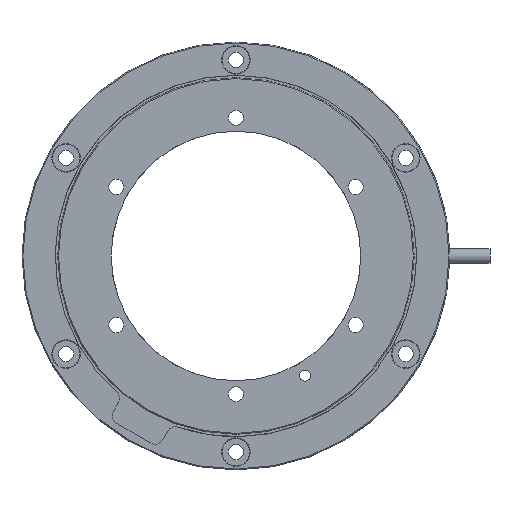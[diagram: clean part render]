
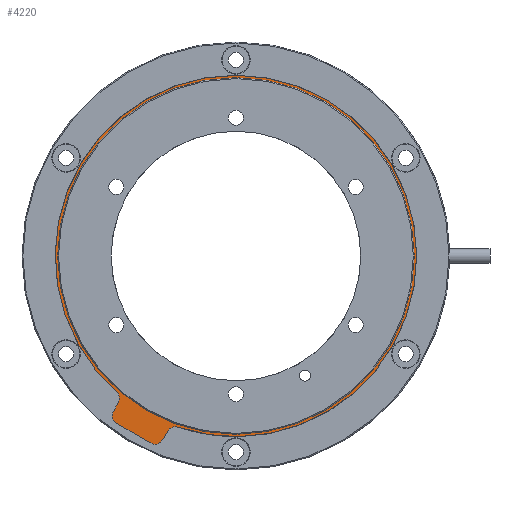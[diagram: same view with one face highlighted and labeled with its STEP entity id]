
A CAD part, front view. The second image highlights one B-rep face of the part: STEP entity #4220.
In plain terms, the highlighted planar face has unit normal (0, -1, 0).
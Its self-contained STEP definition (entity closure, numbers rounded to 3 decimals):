
#16 = DIRECTION ( 'NONE',  ( 0.5, 0., 0.866 ) ) ;
#605 = EDGE_CURVE ( 'NONE', #12593, #2370, #6085, .T. ) ;
#675 = DIRECTION ( 'NONE',  ( 0.5, 0., 0.866 ) ) ;
#733 = EDGE_CURVE ( 'NONE', #13083, #12593, #1282, .T. ) ;
#873 = DIRECTION ( 'NONE',  ( 0.5, 0., 0.866 ) ) ;
#1282 = LINE ( 'NONE', #6525, #5622 ) ;
#1321 = ORIENTED_EDGE ( 'NONE', *, *, #5911, .T. ) ;
#1721 = VECTOR ( 'NONE', #6252, 1000. ) ;
#1812 = CARTESIAN_POINT ( 'NONE',  ( -28.493, 2.8, -36.551 ) ) ;
#2313 = CARTESIAN_POINT ( 'NONE',  ( -18.139, 2.8, -40.219 ) ) ;
#2370 = VERTEX_POINT ( 'NONE', #8362 ) ;
#2409 = CARTESIAN_POINT ( 'NONE',  ( -26.761, 2.8, -37.551 ) ) ;
#2413 = CARTESIAN_POINT ( 'NONE',  ( -26.809, 2.8, -30.424 ) ) ;
#2461 = CARTESIAN_POINT ( 'NONE',  ( -27.493, 2.8, -34.819 ) ) ;
#2564 = AXIS2_PLACEMENT_3D ( 'NONE', #12871, #10789, #873 ) ;
#2638 = EDGE_LOOP ( 'NONE', ( #12337, #5140 ) ) ;
#2905 = EDGE_CURVE ( 'NONE', #2370, #4924, #4213, .T. ) ;
#3207 = VERTEX_POINT ( 'NONE', #2461 ) ;
#3664 = AXIS2_PLACEMENT_3D ( 'NONE', #8796, #13439, #12329 ) ;
#4201 = CARTESIAN_POINT ( 'NONE',  ( -12.943, 2.8, -38.429 ) ) ;
#4204 = DIRECTION ( 'NONE',  ( 0., -1., 0. ) ) ;
#4213 = LINE ( 'NONE', #10743, #12102 ) ;
#4220 = ADVANCED_FACE ( 'NONE', ( #14382, #13516 ), #7780, .T. ) ;
#4570 = DIRECTION ( 'NONE',  ( 0.5, 0., 0.866 ) ) ;
#4599 = VERTEX_POINT ( 'NONE', #5677 ) ;
#4607 = AXIS2_PLACEMENT_3D ( 'NONE', #13445, #10070, #10956 ) ;
#4810 = ORIENTED_EDGE ( 'NONE', *, *, #7568, .T. ) ;
#4924 = VERTEX_POINT ( 'NONE', #5519 ) ;
#4930 = AXIS2_PLACEMENT_3D ( 'NONE', #10745, #5173, #14119 ) ;
#5140 = ORIENTED_EDGE ( 'NONE', *, *, #5966, .F. ) ;
#5173 = DIRECTION ( 'NONE',  ( 0., -1., 0. ) ) ;
#5514 = DIRECTION ( 'NONE',  ( 0., 1., 0. ) ) ;
#5519 = CARTESIAN_POINT ( 'NONE',  ( -15.314, 2.8, -39.324 ) ) ;
#5622 = VECTOR ( 'NONE', #7610, 1000. ) ;
#5677 = CARTESIAN_POINT ( 'NONE',  ( 17.013, 2.8, 29.467 ) ) ;
#5724 = DIRECTION ( 'NONE',  ( 0.5, 0., 0.866 ) ) ;
#5768 = AXIS2_PLACEMENT_3D ( 'NONE', #7720, #8805, #16 ) ;
#5786 = VERTEX_POINT ( 'NONE', #9693 ) ;
#5911 = EDGE_CURVE ( 'NONE', #11913, #10752, #7174, .T. ) ;
#5966 = EDGE_CURVE ( 'NONE', #4599, #5786, #10674, .T. ) ;
#6067 = CIRCLE ( 'NONE', #2564, 2. ) ;
#6085 = CIRCLE ( 'NONE', #14268, 2. ) ;
#6137 = AXIS2_PLACEMENT_3D ( 'NONE', #7432, #4204, #675 ) ;
#6252 = DIRECTION ( 'NONE',  ( -0.5, 0., -0.866 ) ) ;
#6525 = CARTESIAN_POINT ( 'NONE',  ( -17.407, 2.8, -42.951 ) ) ;
#6753 = DIRECTION ( 'NONE',  ( 0., -1., 0. ) ) ;
#6776 = CIRCLE ( 'NONE', #4930, 2. ) ;
#6888 = EDGE_CURVE ( 'NONE', #4924, #11913, #6067, .T. ) ;
#7174 = CIRCLE ( 'NONE', #5768, 40.55 ) ;
#7432 = CARTESIAN_POINT ( 'NONE',  ( 0., 2.8, 0. ) ) ;
#7568 = EDGE_CURVE ( 'NONE', #3207, #13083, #6776, .T. ) ;
#7610 = DIRECTION ( 'NONE',  ( 0.866, 0., -0.5 ) ) ;
#7720 = CARTESIAN_POINT ( 'NONE',  ( 0., 2.8, 0. ) ) ;
#7721 = ORIENTED_EDGE ( 'NONE', *, *, #2905, .T. ) ;
#7780 = PLANE ( 'NONE',  #3664 ) ;
#7864 = CARTESIAN_POINT ( 'NONE',  ( -28.131, 2.8, -31.924 ) ) ;
#7943 = ORIENTED_EDGE ( 'NONE', *, *, #605, .T. ) ;
#8085 = ORIENTED_EDGE ( 'NONE', *, *, #8220, .T. ) ;
#8220 = EDGE_CURVE ( 'NONE', #9168, #3207, #9673, .T. ) ;
#8362 = CARTESIAN_POINT ( 'NONE',  ( -16.407, 2.8, -41.219 ) ) ;
#8589 = ORIENTED_EDGE ( 'NONE', *, *, #733, .T. ) ;
#8652 = EDGE_CURVE ( 'NONE', #5786, #4599, #12460, .T. ) ;
#8796 = CARTESIAN_POINT ( 'NONE',  ( 0., 2.8, 0. ) ) ;
#8805 = DIRECTION ( 'NONE',  ( 0., -1., 0. ) ) ;
#8986 = EDGE_LOOP ( 'NONE', ( #8589, #7943, #7721, #9558, #1321, #10105, #8085, #4810 ) ) ;
#9168 = VERTEX_POINT ( 'NONE', #10906 ) ;
#9558 = ORIENTED_EDGE ( 'NONE', *, *, #6888, .T. ) ;
#9673 = LINE ( 'NONE', #1812, #1721 ) ;
#9693 = CARTESIAN_POINT ( 'NONE',  ( -17.013, 2.8, -29.467 ) ) ;
#10070 = DIRECTION ( 'NONE',  ( 0., -1., 0. ) ) ;
#10105 = ORIENTED_EDGE ( 'NONE', *, *, #10107, .T. ) ;
#10107 = EDGE_CURVE ( 'NONE', #10752, #9168, #11051, .T. ) ;
#10674 = CIRCLE ( 'NONE', #4607, 34.025 ) ;
#10743 = CARTESIAN_POINT ( 'NONE',  ( -14.478, 2.8, -37.877 ) ) ;
#10745 = CARTESIAN_POINT ( 'NONE',  ( -25.761, 2.8, -35.819 ) ) ;
#10752 = VERTEX_POINT ( 'NONE', #2413 ) ;
#10789 = DIRECTION ( 'NONE',  ( 0., 1., 0. ) ) ;
#10906 = CARTESIAN_POINT ( 'NONE',  ( -26.399, 2.8, -32.924 ) ) ;
#10956 = DIRECTION ( 'NONE',  ( 0.5, 0., 0.866 ) ) ;
#11051 = CIRCLE ( 'NONE', #13902, 2. ) ;
#11913 = VERTEX_POINT ( 'NONE', #4201 ) ;
#12102 = VECTOR ( 'NONE', #14324, 1000. ) ;
#12329 = DIRECTION ( 'NONE',  ( 0.5, 0., 0.866 ) ) ;
#12337 = ORIENTED_EDGE ( 'NONE', *, *, #8652, .F. ) ;
#12460 = CIRCLE ( 'NONE', #6137, 34.025 ) ;
#12593 = VERTEX_POINT ( 'NONE', #14247 ) ;
#12871 = CARTESIAN_POINT ( 'NONE',  ( -13.582, 2.8, -40.324 ) ) ;
#13083 = VERTEX_POINT ( 'NONE', #2409 ) ;
#13439 = DIRECTION ( 'NONE',  ( 0., -1., 0. ) ) ;
#13445 = CARTESIAN_POINT ( 'NONE',  ( 0., 2.8, 0. ) ) ;
#13516 = FACE_BOUND ( 'NONE', #2638, .T. ) ;
#13902 = AXIS2_PLACEMENT_3D ( 'NONE', #7864, #5514, #4570 ) ;
#14119 = DIRECTION ( 'NONE',  ( 0.5, 0., 0.866 ) ) ;
#14247 = CARTESIAN_POINT ( 'NONE',  ( -19.139, 2.8, -41.951 ) ) ;
#14268 = AXIS2_PLACEMENT_3D ( 'NONE', #2313, #6753, #5724 ) ;
#14324 = DIRECTION ( 'NONE',  ( 0.5, 0., 0.866 ) ) ;
#14382 = FACE_OUTER_BOUND ( 'NONE', #8986, .T. ) ;
